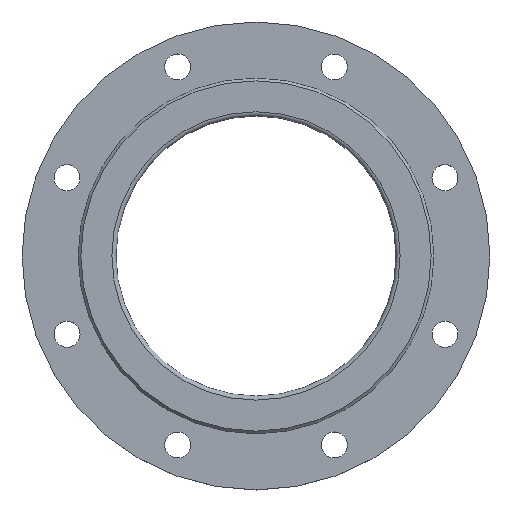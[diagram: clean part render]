
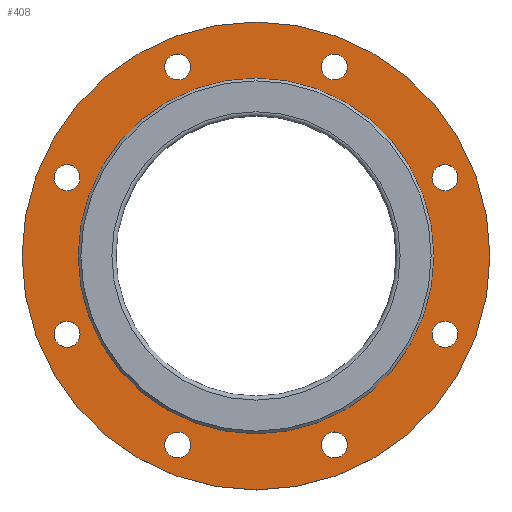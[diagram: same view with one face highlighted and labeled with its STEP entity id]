
A CAD part, top view. The second image highlights one B-rep face of the part: STEP entity #408.
In plain terms, the highlighted planar face has unit normal (0, 0, 1).
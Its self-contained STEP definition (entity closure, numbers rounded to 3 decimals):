
#20=FACE_BOUND('',#72,.T.);
#21=FACE_BOUND('',#73,.T.);
#22=FACE_BOUND('',#74,.T.);
#23=FACE_BOUND('',#75,.T.);
#24=FACE_BOUND('',#76,.T.);
#25=FACE_BOUND('',#77,.T.);
#26=FACE_BOUND('',#78,.T.);
#27=FACE_BOUND('',#79,.T.);
#28=FACE_BOUND('',#80,.T.);
#40=PLANE('',#471);
#52=FACE_OUTER_BOUND('',#71,.T.);
#71=EDGE_LOOP('',(#314,#315));
#72=EDGE_LOOP('',(#316,#317));
#73=EDGE_LOOP('',(#318,#319));
#74=EDGE_LOOP('',(#320,#321));
#75=EDGE_LOOP('',(#322,#323));
#76=EDGE_LOOP('',(#324,#325));
#77=EDGE_LOOP('',(#326,#327));
#78=EDGE_LOOP('',(#328,#329));
#79=EDGE_LOOP('',(#330,#331));
#80=EDGE_LOOP('',(#332,#333));
#128=CIRCLE('',#440,9.5);
#129=CIRCLE('',#441,9.5);
#131=CIRCLE('',#444,9.5);
#132=CIRCLE('',#445,9.5);
#134=CIRCLE('',#448,9.5);
#135=CIRCLE('',#449,9.5);
#137=CIRCLE('',#452,9.5);
#138=CIRCLE('',#453,9.5);
#140=CIRCLE('',#456,9.5);
#141=CIRCLE('',#457,9.5);
#143=CIRCLE('',#460,9.5);
#144=CIRCLE('',#461,9.5);
#146=CIRCLE('',#464,9.5);
#147=CIRCLE('',#465,9.5);
#149=CIRCLE('',#468,9.5);
#150=CIRCLE('',#469,9.5);
#152=CIRCLE('',#472,171.);
#153=CIRCLE('',#473,171.);
#154=CIRCLE('',#474,130.);
#155=CIRCLE('',#475,130.);
#173=VERTEX_POINT('',#648);
#174=VERTEX_POINT('',#649);
#176=VERTEX_POINT('',#656);
#177=VERTEX_POINT('',#657);
#179=VERTEX_POINT('',#664);
#180=VERTEX_POINT('',#665);
#182=VERTEX_POINT('',#672);
#183=VERTEX_POINT('',#673);
#185=VERTEX_POINT('',#680);
#186=VERTEX_POINT('',#681);
#188=VERTEX_POINT('',#688);
#189=VERTEX_POINT('',#689);
#191=VERTEX_POINT('',#696);
#192=VERTEX_POINT('',#697);
#194=VERTEX_POINT('',#704);
#195=VERTEX_POINT('',#705);
#197=VERTEX_POINT('',#712);
#198=VERTEX_POINT('',#713);
#199=VERTEX_POINT('',#716);
#200=VERTEX_POINT('',#717);
#216=EDGE_CURVE('',#173,#174,#128,.T.);
#217=EDGE_CURVE('',#174,#173,#129,.T.);
#220=EDGE_CURVE('',#176,#177,#131,.T.);
#221=EDGE_CURVE('',#177,#176,#132,.T.);
#224=EDGE_CURVE('',#179,#180,#134,.T.);
#225=EDGE_CURVE('',#180,#179,#135,.T.);
#228=EDGE_CURVE('',#182,#183,#137,.T.);
#229=EDGE_CURVE('',#183,#182,#138,.T.);
#232=EDGE_CURVE('',#185,#186,#140,.T.);
#233=EDGE_CURVE('',#186,#185,#141,.T.);
#236=EDGE_CURVE('',#188,#189,#143,.T.);
#237=EDGE_CURVE('',#189,#188,#144,.T.);
#240=EDGE_CURVE('',#191,#192,#146,.T.);
#241=EDGE_CURVE('',#192,#191,#147,.T.);
#244=EDGE_CURVE('',#194,#195,#149,.T.);
#245=EDGE_CURVE('',#195,#194,#150,.T.);
#248=EDGE_CURVE('',#197,#198,#152,.T.);
#249=EDGE_CURVE('',#198,#197,#153,.T.);
#250=EDGE_CURVE('',#199,#200,#154,.T.);
#251=EDGE_CURVE('',#200,#199,#155,.T.);
#314=ORIENTED_EDGE('',*,*,#248,.F.);
#315=ORIENTED_EDGE('',*,*,#249,.F.);
#316=ORIENTED_EDGE('',*,*,#216,.T.);
#317=ORIENTED_EDGE('',*,*,#217,.T.);
#318=ORIENTED_EDGE('',*,*,#220,.T.);
#319=ORIENTED_EDGE('',*,*,#221,.T.);
#320=ORIENTED_EDGE('',*,*,#224,.T.);
#321=ORIENTED_EDGE('',*,*,#225,.T.);
#322=ORIENTED_EDGE('',*,*,#228,.T.);
#323=ORIENTED_EDGE('',*,*,#229,.T.);
#324=ORIENTED_EDGE('',*,*,#232,.T.);
#325=ORIENTED_EDGE('',*,*,#233,.T.);
#326=ORIENTED_EDGE('',*,*,#236,.T.);
#327=ORIENTED_EDGE('',*,*,#237,.T.);
#328=ORIENTED_EDGE('',*,*,#240,.T.);
#329=ORIENTED_EDGE('',*,*,#241,.T.);
#330=ORIENTED_EDGE('',*,*,#244,.T.);
#331=ORIENTED_EDGE('',*,*,#245,.T.);
#332=ORIENTED_EDGE('',*,*,#250,.T.);
#333=ORIENTED_EDGE('',*,*,#251,.T.);
#408=ADVANCED_FACE('',(#52,#20,#21,#22,#23,#24,#25,#26,#27,#28),#40,.F.);
#440=AXIS2_PLACEMENT_3D('',#650,#507,#508);
#441=AXIS2_PLACEMENT_3D('',#651,#509,#510);
#444=AXIS2_PLACEMENT_3D('',#658,#516,#517);
#445=AXIS2_PLACEMENT_3D('',#659,#518,#519);
#448=AXIS2_PLACEMENT_3D('',#666,#525,#526);
#449=AXIS2_PLACEMENT_3D('',#667,#527,#528);
#452=AXIS2_PLACEMENT_3D('',#674,#534,#535);
#453=AXIS2_PLACEMENT_3D('',#675,#536,#537);
#456=AXIS2_PLACEMENT_3D('',#682,#543,#544);
#457=AXIS2_PLACEMENT_3D('',#683,#545,#546);
#460=AXIS2_PLACEMENT_3D('',#690,#552,#553);
#461=AXIS2_PLACEMENT_3D('',#691,#554,#555);
#464=AXIS2_PLACEMENT_3D('',#698,#561,#562);
#465=AXIS2_PLACEMENT_3D('',#699,#563,#564);
#468=AXIS2_PLACEMENT_3D('',#706,#570,#571);
#469=AXIS2_PLACEMENT_3D('',#707,#572,#573);
#471=AXIS2_PLACEMENT_3D('',#711,#577,#578);
#472=AXIS2_PLACEMENT_3D('',#714,#579,#580);
#473=AXIS2_PLACEMENT_3D('',#715,#581,#582);
#474=AXIS2_PLACEMENT_3D('',#718,#583,#584);
#475=AXIS2_PLACEMENT_3D('',#719,#585,#586);
#507=DIRECTION('center_axis',(0.,0.,-1.));
#508=DIRECTION('ref_axis',(0.707,-0.707,0.));
#509=DIRECTION('center_axis',(0.,0.,-1.));
#510=DIRECTION('ref_axis',(0.707,-0.707,0.));
#516=DIRECTION('center_axis',(0.,0.,-1.));
#517=DIRECTION('ref_axis',(0.,-1.,0.));
#518=DIRECTION('center_axis',(0.,0.,-1.));
#519=DIRECTION('ref_axis',(0.,-1.,0.));
#525=DIRECTION('center_axis',(0.,0.,-1.));
#526=DIRECTION('ref_axis',(-0.707,-0.707,0.));
#527=DIRECTION('center_axis',(0.,0.,-1.));
#528=DIRECTION('ref_axis',(-0.707,-0.707,0.));
#534=DIRECTION('center_axis',(0.,0.,-1.));
#535=DIRECTION('ref_axis',(-1.,0.,0.));
#536=DIRECTION('center_axis',(0.,0.,-1.));
#537=DIRECTION('ref_axis',(-1.,0.,0.));
#543=DIRECTION('center_axis',(0.,0.,-1.));
#544=DIRECTION('ref_axis',(-0.707,0.707,0.));
#545=DIRECTION('center_axis',(0.,0.,-1.));
#546=DIRECTION('ref_axis',(-0.707,0.707,0.));
#552=DIRECTION('center_axis',(0.,0.,-1.));
#553=DIRECTION('ref_axis',(0.,1.,0.));
#554=DIRECTION('center_axis',(0.,0.,-1.));
#555=DIRECTION('ref_axis',(0.,1.,0.));
#561=DIRECTION('center_axis',(0.,0.,-1.));
#562=DIRECTION('ref_axis',(0.707,0.707,0.));
#563=DIRECTION('center_axis',(0.,0.,-1.));
#564=DIRECTION('ref_axis',(0.707,0.707,0.));
#570=DIRECTION('center_axis',(0.,0.,-1.));
#571=DIRECTION('ref_axis',(1.,0.,0.));
#572=DIRECTION('center_axis',(0.,0.,-1.));
#573=DIRECTION('ref_axis',(1.,0.,0.));
#577=DIRECTION('center_axis',(0.,0.,-1.));
#578=DIRECTION('ref_axis',(-1.,0.,0.));
#579=DIRECTION('center_axis',(0.,0.,-1.));
#580=DIRECTION('ref_axis',(1.,0.,0.));
#581=DIRECTION('center_axis',(0.,0.,-1.));
#582=DIRECTION('ref_axis',(1.,0.,0.));
#583=DIRECTION('center_axis',(0.,0.,-1.));
#584=DIRECTION('ref_axis',(1.,0.,0.));
#585=DIRECTION('center_axis',(0.,0.,-1.));
#586=DIRECTION('ref_axis',(1.,0.,0.));
#648=CARTESIAN_POINT('',(63.929,131.402,-2.));
#649=CARTESIAN_POINT('',(50.494,144.838,-2.));
#650=CARTESIAN_POINT('Origin',(57.211,138.12,-2.));
#651=CARTESIAN_POINT('Origin',(57.211,138.12,-2.));
#656=CARTESIAN_POINT('',(138.12,47.711,-2.));
#657=CARTESIAN_POINT('',(138.12,66.711,-2.));
#658=CARTESIAN_POINT('Origin',(138.12,57.211,-2.));
#659=CARTESIAN_POINT('Origin',(138.12,57.211,-2.));
#664=CARTESIAN_POINT('',(131.402,-63.929,-2.));
#665=CARTESIAN_POINT('',(144.838,-50.494,-2.));
#666=CARTESIAN_POINT('Origin',(138.12,-57.211,-2.));
#667=CARTESIAN_POINT('Origin',(138.12,-57.211,-2.));
#672=CARTESIAN_POINT('',(47.711,-138.12,-2.));
#673=CARTESIAN_POINT('',(66.711,-138.12,-2.));
#674=CARTESIAN_POINT('Origin',(57.211,-138.12,-2.));
#675=CARTESIAN_POINT('Origin',(57.211,-138.12,-2.));
#680=CARTESIAN_POINT('',(-63.929,-131.402,-2.));
#681=CARTESIAN_POINT('',(-50.494,-144.838,-2.));
#682=CARTESIAN_POINT('Origin',(-57.211,-138.12,-2.));
#683=CARTESIAN_POINT('Origin',(-57.211,-138.12,-2.));
#688=CARTESIAN_POINT('',(-138.12,-47.711,-2.));
#689=CARTESIAN_POINT('',(-138.12,-66.711,-2.));
#690=CARTESIAN_POINT('Origin',(-138.12,-57.211,-2.));
#691=CARTESIAN_POINT('Origin',(-138.12,-57.211,-2.));
#696=CARTESIAN_POINT('',(-131.402,63.929,-2.));
#697=CARTESIAN_POINT('',(-144.838,50.494,-2.));
#698=CARTESIAN_POINT('Origin',(-138.12,57.211,-2.));
#699=CARTESIAN_POINT('Origin',(-138.12,57.211,-2.));
#704=CARTESIAN_POINT('',(-47.711,138.12,-2.));
#705=CARTESIAN_POINT('',(-66.711,138.12,-2.));
#706=CARTESIAN_POINT('Origin',(-57.211,138.12,-2.));
#707=CARTESIAN_POINT('Origin',(-57.211,138.12,-2.));
#711=CARTESIAN_POINT('Origin',(130.,0.,-2.));
#712=CARTESIAN_POINT('',(171.,0.,-2.));
#713=CARTESIAN_POINT('',(-171.,0.,-2.));
#714=CARTESIAN_POINT('Origin',(0.,0.,-2.));
#715=CARTESIAN_POINT('Origin',(0.,0.,-2.));
#716=CARTESIAN_POINT('',(130.,0.,-2.));
#717=CARTESIAN_POINT('',(-130.,0.,-2.));
#718=CARTESIAN_POINT('Origin',(0.,0.,-2.));
#719=CARTESIAN_POINT('Origin',(0.,0.,-2.));
